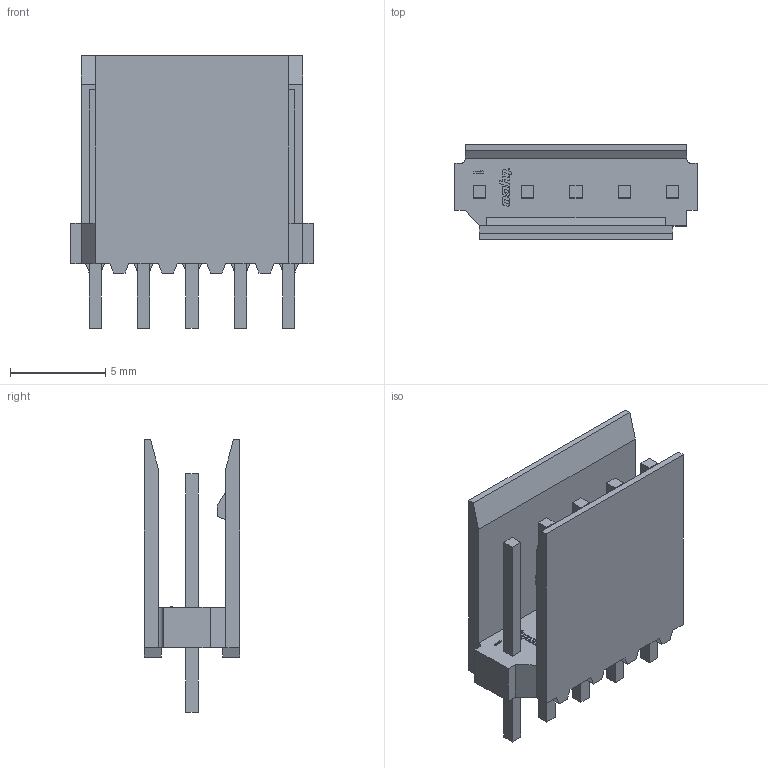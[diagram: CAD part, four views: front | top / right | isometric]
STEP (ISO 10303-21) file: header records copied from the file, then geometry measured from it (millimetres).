
FILE_DESCRIPTION(('STEP AP214'),'1');
FILE_NAME('02m0096_281695-5.stp','2017-05-21T20:24:07',('TraceParts'),('TraceParts S.A.'),'Spatial InterOp 3D',' ',' ');
FILE_SCHEMA(('automotive_design'));
Length unit declared in the file: millimetre
Products named in the file (1): 02m0096_281695-5
Bounding box: 12.7 x 5 x 14.3 mm (x, y, z)
Volume: 285.6 mm3; surface area: 741.6 mm2
Topology: 1 solids, 1 shells, 211 faces, 574 edges, 382 vertices
Faces by surface type: plane 171, cylinder 40
Entity records: 6607 total; most frequent: CARTESIAN_POINT 1168, ORIENTED_EDGE 1148, DIRECTION 1078, EDGE_CURVE 574, LINE 494, VECTOR 494, VERTEX_POINT 382, AXIS2_PLACEMENT_3D 292
